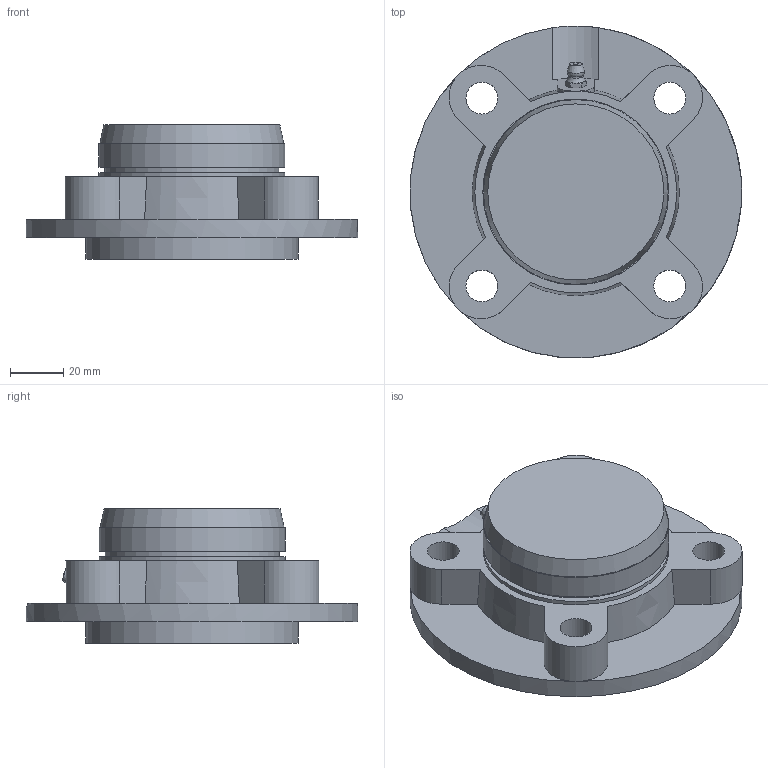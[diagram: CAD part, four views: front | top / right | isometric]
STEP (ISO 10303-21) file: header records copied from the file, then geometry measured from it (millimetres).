
FILE_DESCRIPTION((''),'2;1');
FILE_NAME('\\Ts-tgl068\j-cad-d-base\00.3DCADデータ作成フォルダ\02.フランジ形\UKFC200C(E)\UKFC206E+H.stp','2014-05-22T07:52:20',('btec_1106_2'),(''),'Autodesk Inventor 2012','Autodesk Inventor 2012','');
FILE_SCHEMA(('AUTOMOTIVE_DESIGN { 1 0 10303 214 1 1 1 1 }'));
Length unit declared in the file: millimetre
Products named in the file (5): UKFC200E+H; FC206C; 206CPE; UK206; GU1
Assembly tree (4 placements, depth 2):
  UKFC200E+H
    FC206C
    206CPE
    UK206
    GU1
Bounding box: 124.85 x 124.9 x 50.5 mm (x, y, z)
Volume: 192074 mm3; surface area: 72933.2 mm2
Topology: 4 solids, 4 shells, 203 faces, 514 edges, 333 vertices
Faces by surface type: plane 88, cone 55, cylinder 52, sphere 4, bspline 2, torus 2
Full cylindrical faces by diameter (mm): 5.359 x1, 6.35 x1, 12 x4, 25 x1, 40.5 x2, 64 x1, 65.6 x1, 68.4 x2, 70 x3, 80 x1, 125 x1
Entity records: 6046 total; most frequent: CARTESIAN_POINT 1388, ORIENTED_EDGE 952, DIRECTION 931, EDGE_CURVE 476, AXIS2_PLACEMENT_3D 387, VERTEX_POINT 322, EDGE_LOOP 261, FACE_OUTER_BOUND 203
